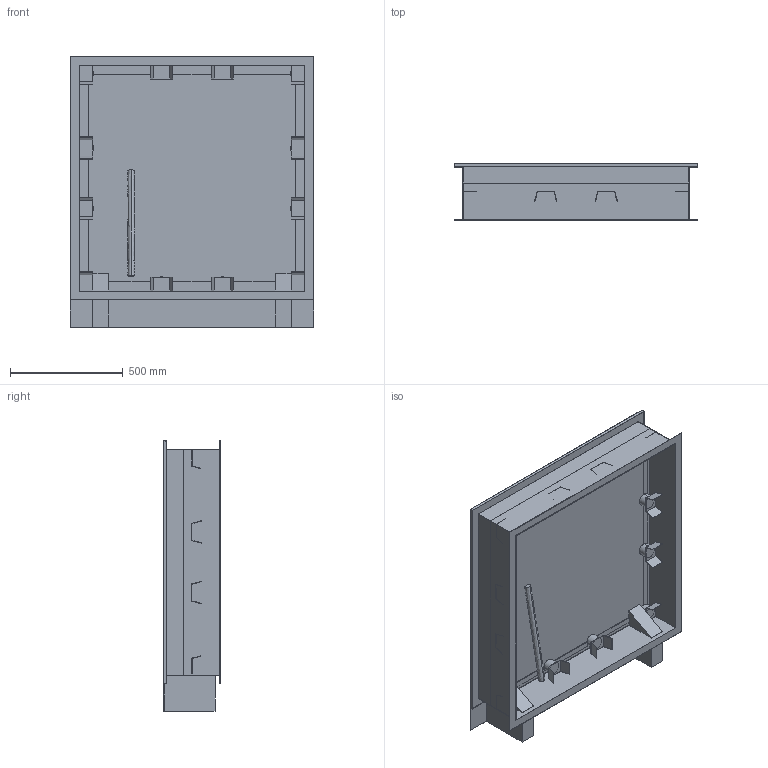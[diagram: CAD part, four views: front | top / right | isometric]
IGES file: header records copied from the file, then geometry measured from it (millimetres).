
Start section:  PTC IGES file: 51822003.igs
Global section: file name: 51822003.igs; native system: Creo Parametric by PTC Inc.; preprocessor: 2022162; author: hrl; organization: Unknown; date: 20250422.080011; units: millimetre
Bounding box: 1078 x 250 x 1200 mm (x, y, z)
Surface area: 6075098 mm2 (no closed solid volume)
Topology: 0 solids, 0 shells, 323 faces, 1754 edges, 1754 vertices
Faces by surface type: bspline 235, revolution 88
